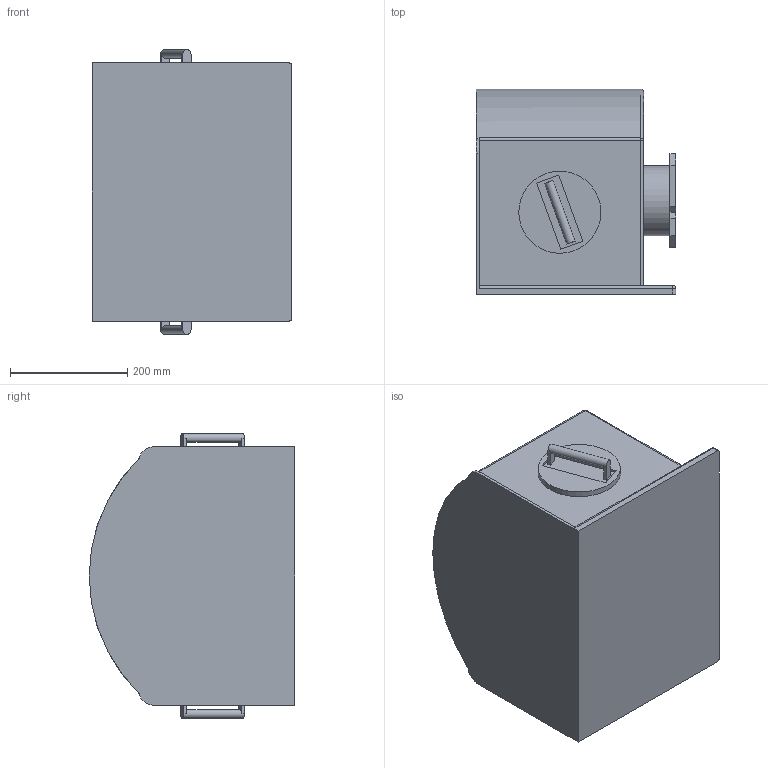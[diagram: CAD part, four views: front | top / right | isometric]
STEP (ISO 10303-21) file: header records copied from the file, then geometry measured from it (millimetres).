
FILE_DESCRIPTION (( 'STEP AP214' ), '1' );
FILE_NAME ('foup.STEP', '2024-06-05T03:38:49', ( '' ), ( '' ), 'SwSTEP 2.0', 'SolidWorks 2020', '' );
FILE_SCHEMA (( 'AUTOMOTIVE_DESIGN' ));
Length unit declared in the file: millimetre
Products named in the file (1): foup
Bounding box: 340 x 350 x 485 mm (x, y, z)
Volume: 38510921.6 mm3; surface area: 818372.4 mm2
Topology: 1 solids, 1 shells, 125 faces, 320 edges, 206 vertices
Faces by surface type: plane 102, cylinder 18, sphere 4, torus 1
Full cylindrical faces by diameter (mm): 15 x2, 50 x1, 120 x1, 140 x2
Entity records: 3697 total; most frequent: CARTESIAN_POINT 638, ORIENTED_EDGE 616, DIRECTION 605, EDGE_CURVE 308, VECTOR 263, LINE 263, VERTEX_POINT 204, AXIS2_PLACEMENT_3D 171
